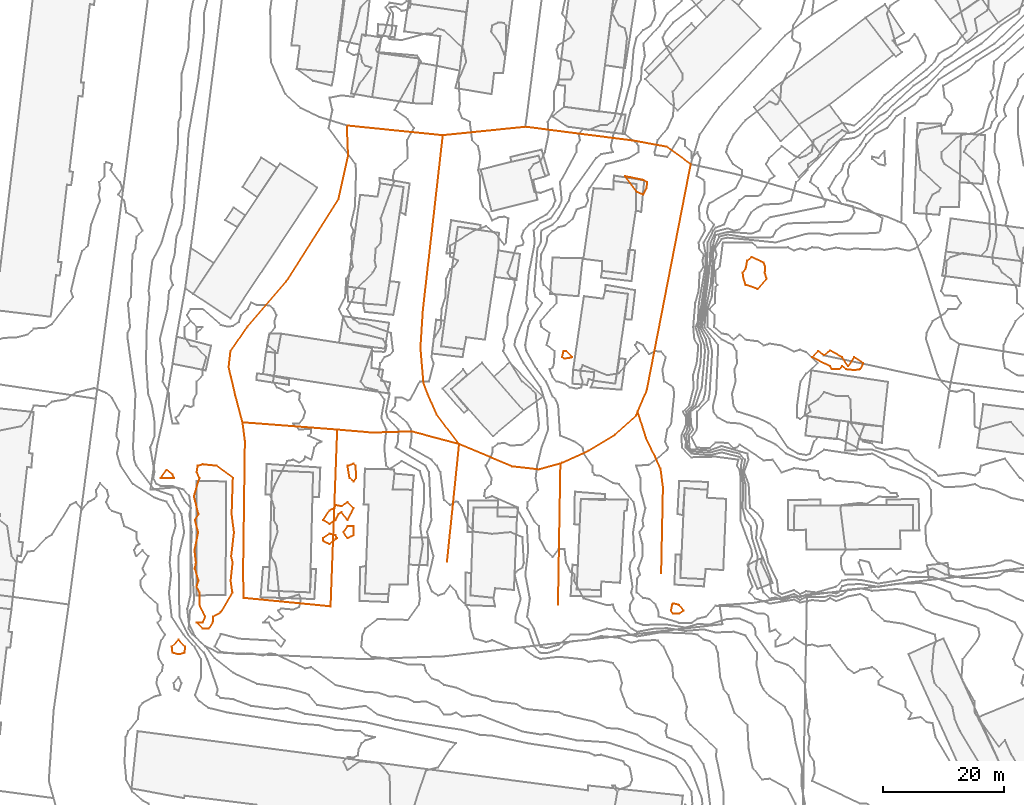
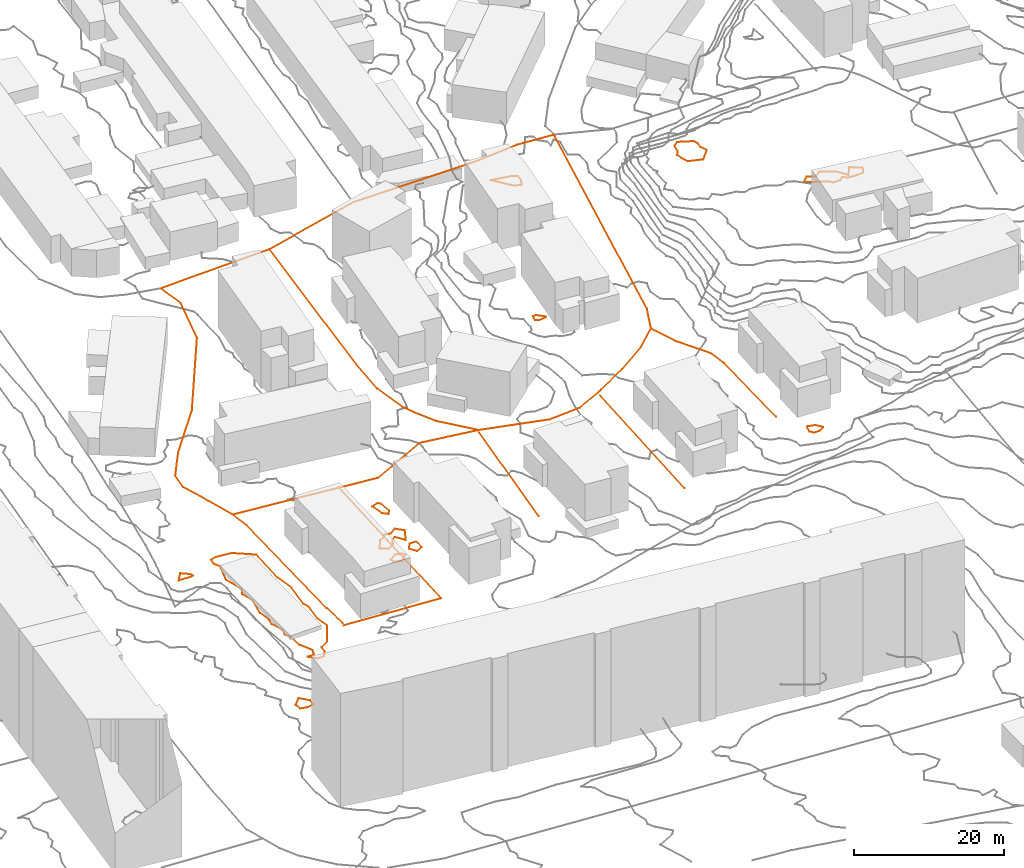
# Not in any storey, part 245 of 419: 27 proxies.
"""IFC2X3 model written with IfcOpenShell, lengths in metres."""

from ifc_helpers import new_model, entity, si_unit, frame, origin_with_axes, place, context, subcontext, project, element, save


model = new_model("IFC2X3")

# Units and contexts
model_context = context("Model", 3, precision=1e-05, world=origin_with_axes())
body_context = subcontext(model_context, "Body", "Model", "MODEL_VIEW")
ifc_project = project(units=[si_unit("AREAUNIT", "SQUARE_METRE"), si_unit("LENGTHUNIT", "METRE")], contexts=[model_context])

# Proxies
proxy_1_placement = place(None, frame((499.1920204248, 657.4976909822, 37.1), z_axis=(0.0, 0.0, 1.0), x_axis=(1.0, 0.0, 0.0)))
element("IfcBuildingElementProxy", 1, at=proxy_1_placement, Name="Route 61", ObjectType="NOTDEFINED", context=body_context, shape_type="GeometricCurveSet", body=[
    entity("IfcGeometricCurveSet", [entity("IfcPolyline", [entity("IfcCartesianPoint", [3.7000000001, 35.2000000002, 0.1]), entity("IfcCartesianPoint", [0.4, 6.2000000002, 0.0]), entity("IfcCartesianPoint", [0.0, 0.0, 0.0]), entity("IfcCartesianPoint", [0.5, -5.8999999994, 0.4]), entity("IfcCartesianPoint", [1.2000000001, -7.6999999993, 0.4]), entity("IfcCartesianPoint", [2.7000000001, -11.0999999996, 0.5]), entity("IfcCartesianPoint", [6.4, -16.0, 0.7])])]),
])
proxy_2_placement = place(None, frame((516.5920204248, 694.0976909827, 39.2), z_axis=(0.0, 0.0, 1.0), x_axis=(1.0, 0.0, 0.0)))
element("IfcBuildingElementProxy", 2, at=proxy_2_placement, Name="Route 71", ObjectType="NOTDEFINED", context=body_context, shape_type="GeometricCurveSet", body=[
    entity("IfcGeometricCurveSet", [entity("IfcPolyline", [entity("IfcCartesianPoint", [0.0, 0.0, 0.0]), entity("IfcCartesianPoint", [17.9, -2.2999999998, 1.9]), entity("IfcCartesianPoint", [23.4, -3.2999999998, 3.2]), entity("IfcCartesianPoint", [27.4, -6.2000000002, 5.2])])]),
])
proxy_3_placement = place(None, frame((469.6920204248, 645.0976909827, 34.4), z_axis=(0.0, 0.0, 1.0), x_axis=(1.0, 0.0, 0.0)))
element("IfcBuildingElementProxy", 3, at=proxy_3_placement, Name="Route 73", ObjectType="NOTDEFINED", context=body_context, shape_type="GeometricCurveSet", body=[
    entity("IfcGeometricCurveSet", [entity("IfcPolyline", [entity("IfcCartesianPoint", [0.0, 0.0, 0.0]), entity("IfcCartesianPoint", [15.7000000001, -1.2000000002, -0.4])])]),
])
proxy_4_placement = place(None, frame((467.3920204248, 654.2976909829, 34.1), z_axis=(0.0, 0.0, 1.0), x_axis=(1.0, 0.0, 0.0)))
element("IfcBuildingElementProxy", 4, at=proxy_4_placement, Name="Route 74", ObjectType="NOTDEFINED", context=body_context, shape_type="GeometricCurveSet", body=[
    entity("IfcGeometricCurveSet", [entity("IfcPolyline", [entity("IfcCartesianPoint", [19.6, 40.0, 1.3]), entity("IfcCartesianPoint", [19.7999999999, 35.0, 1.9]), entity("IfcCartesianPoint", [18.2, 27.7999999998, 1.2]), entity("IfcCartesianPoint", [9.5, 14.0999999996, 0.7]), entity("IfcCartesianPoint", [3.1, 6.6999999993, 0.5]), entity("IfcCartesianPoint", [0.2999999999, 2.5999999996, 0.2]), entity("IfcCartesianPoint", [0.0, 0.0, 0.0]), entity("IfcCartesianPoint", [1.1, -4.7000000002, 0.3]), entity("IfcCartesianPoint", [2.2999999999, -9.2000000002, 0.3])])]),
])
proxy_5_placement = place(None, frame((535.1920204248, 646.8976909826, 40.7520004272), z_axis=(0.0, 0.0, 1.0), x_axis=(1.0, 0.0, 0.0)))
element("IfcBuildingElementProxy", 5, at=proxy_5_placement, Name="Route 85", ObjectType="NOTDEFINED", context=body_context, shape_type="GeometricCurveSet", body=[
    entity("IfcGeometricCurveSet", [entity("IfcPolyline", [entity("IfcCartesianPoint", [0.0, 0.0, 0.0]), entity("IfcCartesianPoint", [1.4, -4.4000000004, 0.0839996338]), entity("IfcCartesianPoint", [2.9, -7.5, 0.2629989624]), entity("IfcCartesianPoint", [3.8, -9.5, 0.3700004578]), entity("IfcCartesianPoint", [4.2000000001, -12.5, 0.4239997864]), entity("IfcCartesianPoint", [3.9, -26.7999999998, 0.4994997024])])]),
])
proxy_6_placement = place(None, frame((469.6920204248, 645.0976909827, 34.4), z_axis=(0.0, 0.0, 1.0), x_axis=(1.0, 0.0, 0.0)))
element("IfcBuildingElementProxy", 6, at=proxy_6_placement, Name="Route 86", ObjectType="NOTDEFINED", context=body_context, shape_type="GeometricCurveSet", body=[
    entity("IfcGeometricCurveSet", [entity("IfcPolyline", [entity("IfcCartesianPoint", [0.0, 0.0, 0.0]), entity("IfcCartesianPoint", [0.4, -3.1000000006, 0.0]), entity("IfcCartesianPoint", [0.1, -25.0, -0.1]), entity("IfcCartesianPoint", [0.2000000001, -29.1000000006, -0.1])])]),
])
proxy_7_placement = place(None, frame((502.8920204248, 692.6976909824, 37.2), z_axis=(0.0, 0.0, 1.0), x_axis=(1.0, 0.0, 0.0)))
element("IfcBuildingElementProxy", 7, at=proxy_7_placement, Name="Route 124", ObjectType="NOTDEFINED", context=body_context, shape_type="GeometricCurveSet", body=[
    entity("IfcGeometricCurveSet", [entity("IfcPolyline", [entity("IfcCartesianPoint", [13.7, 1.4000000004, 2.0]), entity("IfcCartesianPoint", [0.0, 0.0, 0.0])])]),
])
proxy_8_placement = place(None, frame((485.3920204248, 643.8976909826, 34.0), z_axis=(0.0, 0.0, 1.0), x_axis=(1.0, 0.0, 0.0)))
element("IfcBuildingElementProxy", 8, at=proxy_8_placement, Name="Route 126", ObjectType="NOTDEFINED", context=body_context, shape_type="GeometricCurveSet", body=[
    entity("IfcGeometricCurveSet", [entity("IfcPolyline", [entity("IfcCartesianPoint", [0.0, 0.0, 0.0]), entity("IfcCartesianPoint", [5.7999999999, -0.5, -0.1]), entity("IfcCartesianPoint", [12.2999999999, -0.2999999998, 3.2]), entity("IfcCartesianPoint", [20.2, -2.4000000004, 3.8])])]),
])
proxy_9_placement = place(None, frame((521.9920204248, 614.8976909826, 38.7550003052), z_axis=(0.0, 0.0, 1.0), x_axis=(1.0, 0.0, 0.0)))
element("IfcBuildingElementProxy", 9, at=proxy_9_placement, Name="Route 135", ObjectType="NOTDEFINED", context=body_context, shape_type="GeometricCurveSet", body=[
    entity("IfcGeometricCurveSet", [entity("IfcPolyline", [entity("IfcCartesianPoint", [0.4, 23.4000000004, 0.8526006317]), entity("IfcCartesianPoint", [0.0, 0.0, 0.0])])]),
])
proxy_10_placement = place(None, frame((535.1920204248, 646.8976909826, 41.3), z_axis=(0.0, 0.0, 1.0), x_axis=(1.0, 0.0, 0.0)))
element("IfcBuildingElementProxy", 10, at=proxy_10_placement, Name="Route 138", ObjectType="NOTDEFINED", context=body_context, shape_type="GeometricCurveSet", body=[
    entity("IfcGeometricCurveSet", [entity("IfcPolyline", [entity("IfcCartesianPoint", [0.0, 0.0, 0.0]), entity("IfcCartesianPoint", [1.5, 3.5, 0.0]), entity("IfcCartesianPoint", [8.8, 41.0, 3.1])])]),
])
proxy_11_placement = place(None, frame((505.5920204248, 641.4976909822, 37.8), z_axis=(0.0, 0.0, 1.0), x_axis=(1.0, 0.0, 0.0)))
element("IfcBuildingElementProxy", 11, at=proxy_11_placement, Name="Route 149", ObjectType="NOTDEFINED", context=body_context, shape_type="GeometricCurveSet", body=[
    entity("IfcGeometricCurveSet", [entity("IfcPolyline", [entity("IfcCartesianPoint", [0.0, 0.0, 0.0]), entity("IfcCartesianPoint", [8.8, -3.6999999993, 0.9]), entity("IfcCartesianPoint", [13.2, -4.1999999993, 1.6]), entity("IfcCartesianPoint", [16.8, -3.1999999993, 2.4])])]),
])
proxy_12_placement = place(None, frame((503.5920204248, 621.9976909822, 36.2660003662), z_axis=(0.0, 0.0, 1.0), x_axis=(1.0, 0.0, 0.0)))
element("IfcBuildingElementProxy", 12, at=proxy_12_placement, Name="Route 150", ObjectType="NOTDEFINED", context=body_context, shape_type="GeometricCurveSet", body=[
    entity("IfcGeometricCurveSet", [entity("IfcPolyline", [entity("IfcCartesianPoint", [2.0, 19.5, 1.3110012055]), entity("IfcCartesianPoint", [0.0, 0.0, 0.0])])]),
])
proxy_13_placement = place(None, frame((469.8920204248, 615.9976909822, 33.8788010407), z_axis=(0.0, 0.0, 1.0), x_axis=(1.0, 0.0, 0.0)))
element("IfcBuildingElementProxy", 13, at=proxy_13_placement, Name="Route 187", ObjectType="NOTDEFINED", context=body_context, shape_type="GeometricCurveSet", body=[
    entity("IfcGeometricCurveSet", [entity("IfcPolyline", [entity("IfcCartesianPoint", [0.0, 0.0, 0.0]), entity("IfcCartesianPoint", [14.3999999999, -1.3999999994, 0.2623983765]), entity("IfcCartesianPoint", [15.5, 27.9000000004, 0.2032004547])])]),
])
proxy_14_placement = place(None, frame((522.3920204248, 638.2976909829, 40.2), z_axis=(0.0, 0.0, 1.0), x_axis=(1.0, 0.0, 0.0)))
element("IfcBuildingElementProxy", 14, at=proxy_14_placement, Name="Route 213", ObjectType="NOTDEFINED", context=body_context, shape_type="GeometricCurveSet", body=[
    entity("IfcGeometricCurveSet", [entity("IfcPolyline", [entity("IfcCartesianPoint", [0.0, 0.0, 0.0]), entity("IfcCartesianPoint", [0.2999999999, 0.0999999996, 0.1]), entity("IfcCartesianPoint", [4.7, 2.0999999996, 0.7]), entity("IfcCartesianPoint", [9.1, 4.7999999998, 1.0]), entity("IfcCartesianPoint", [12.5, 7.8999999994, 1.1]), entity("IfcCartesianPoint", [12.7999999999, 8.5999999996, 1.1])])]),
])
proxy_15_placement = place(None, frame((486.9920204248, 694.2976909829, 35.4), z_axis=(0.0, 0.0, 1.0), x_axis=(1.0, 0.0, 0.0)))
element("IfcBuildingElementProxy", 15, at=proxy_15_placement, Name="Route 341", ObjectType="NOTDEFINED", context=body_context, shape_type="GeometricCurveSet", body=[
    entity("IfcGeometricCurveSet", [entity("IfcPolyline", [entity("IfcCartesianPoint", [0.0, 0.0, 0.0]), entity("IfcCartesianPoint", [15.9, -1.6000000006, 1.8])])]),
])
proxy_16_placement = place(None, frame((533.0920004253, 685.8976909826, 42.0), z_axis=(0.0, 0.0, 1.0), x_axis=(1.0, 0.0, 0.0)))
element("IfcBuildingElementProxy", 16, at=proxy_16_placement, Name="Contour 42.0 m", ObjectType="NOTDEFINED", context=body_context, shape_type="GeometricCurveSet", body=[
    entity("IfcGeometricCurveSet", [entity("IfcPolyline", [entity("IfcCartesianPoint", [3.0000283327, -3.0, 0.0]), entity("IfcCartesianPoint", [2.0000199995, -2.6363573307, 0.0]), entity("IfcCartesianPoint", [0.0, 0.0, 0.0]), entity("IfcCartesianPoint", [3.0000199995, -0.5999847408, 0.0]), entity("IfcCartesianPoint", [3.6667290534, -1.0, 0.0]), entity("IfcCartesianPoint", [3.5714485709, -2.0, 0.0]), entity("IfcCartesianPoint", [3.0000283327, -3.0, 0.0])])]),
])
proxy_17_placement = place(None, frame((552.592045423, 669.8976909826, 49.0), z_axis=(0.0, 0.0, 1.0), x_axis=(1.0, 0.0, 0.0)))
element("IfcBuildingElementProxy", 17, at=proxy_17_placement, Name="Contour 49.0 m", ObjectType="NOTDEFINED", context=body_context, shape_type="GeometricCurveSet", body=[
    entity("IfcGeometricCurveSet", [entity("IfcPolyline", [entity("IfcCartesianPoint", [2.4999750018, -2.6667090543, 0.0]), entity("IfcCartesianPoint", [3.9999249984, -1.0, 0.0]), entity("IfcCartesianPoint", [3.6666204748, 0.0, 0.0]), entity("IfcCartesianPoint", [3.7499750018, 1.0, 0.0]), entity("IfcCartesianPoint", [3.4999750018, 1.6667090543, 0.0]), entity("IfcCartesianPoint", [1.4999750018, 2.5999847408, 0.0]), entity("IfcCartesianPoint", [0.7499511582, 2.0, 0.0]), entity("IfcCartesianPoint", [0.4999750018, 0.6667090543, 0.0]), entity("IfcCartesianPoint", [0.0, 0.0, 0.0]), entity("IfcCartesianPoint", [0.1666840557, -1.0, 0.0]), entity("IfcCartesianPoint", [0.5000749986, -2.0, 0.0]), entity("IfcCartesianPoint", [2.4999750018, -2.6667090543, 0.0])])]),
])
proxy_18_placement = place(None, frame((522.6374844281, 655.8976909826, 41.0), z_axis=(0.0, 0.0, 1.0), x_axis=(1.0, 0.0, 0.0)))
element("IfcBuildingElementProxy", 18, at=proxy_18_placement, Name="Contour 41.0 m", ObjectType="NOTDEFINED", context=body_context, shape_type="GeometricCurveSet", body=[
    entity("IfcGeometricCurveSet", [entity("IfcPolyline", [entity("IfcCartesianPoint", [1.4545359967, -0.0833200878, 0.0]), entity("IfcCartesianPoint", [1.7045121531, 0.0, 0.0]), entity("IfcCartesianPoint", [0.7045121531, 1.0, 0.0]), entity("IfcCartesianPoint", [0.2545665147, 1.0, 0.0]), entity("IfcCartesianPoint", [0.0, 0.0, 0.0]), entity("IfcCartesianPoint", [0.4545359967, -0.2272719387, 0.0]), entity("IfcCartesianPoint", [1.4545359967, -0.0833200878, 0.0])])]),
])
proxy_19_placement = place(None, frame((564.0920704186, 655.8976909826, 49.0), z_axis=(0.0, 0.0, 1.0), x_axis=(1.0, 0.0, 0.0)))
element("IfcBuildingElementProxy", 19, at=proxy_19_placement, Name="Contour 49.0 m", ObjectType="NOTDEFINED", context=body_context, shape_type="GeometricCurveSet", body=[
    entity("IfcGeometricCurveSet", [entity("IfcPolyline", [entity("IfcCartesianPoint", [6.9999500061, -2.142833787, 0.0]), entity("IfcCartesianPoint", [7.9999500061, -1.999966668, 0.0]), entity("IfcCartesianPoint", [8.4999333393, -1.0, 0.0]), entity("IfcCartesianPoint", [6.9999500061, -1.99992e-05, 0.0]), entity("IfcCartesianPoint", [5.9999500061, -1.5000500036, 0.0]), entity("IfcCartesianPoint", [4.9999166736, 0.0, 0.0]), entity("IfcCartesianPoint", [2.9999500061, 1.1110922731, 0.0]), entity("IfcCartesianPoint", [1.9999500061, 0.3332909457, 0.0]), entity("IfcCartesianPoint", [0.9999500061, 0.9999500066, 0.0]), entity("IfcCartesianPoint", [0.0, 0.0, 0.0]), entity("IfcCartesianPoint", [2.9999500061, -1.4999499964, 0.0]), entity("IfcCartesianPoint", [3.3332409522, -2.0, 0.0]), entity("IfcCartesianPoint", [4.4999250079, -2.0, 0.0]), entity("IfcCartesianPoint", [4.9999500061, -1.4999750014, 0.0]), entity("IfcCartesianPoint", [5.6666590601, -2.0, 0.0]), entity("IfcCartesianPoint", [6.9999500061, -2.142833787, 0.0])])]),
])
proxy_20_placement = place(None, frame((487.0920704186, 637.8976909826, 34.0), z_axis=(0.0, 0.0, 1.0), x_axis=(1.0, 0.0, 0.0)))
element("IfcBuildingElementProxy", 20, at=proxy_20_placement, Name="Contour 34.0 m", ObjectType="NOTDEFINED", context=body_context, shape_type="GeometricCurveSet", body=[
    entity("IfcGeometricCurveSet", [entity("IfcPolyline", [entity("IfcCartesianPoint", [0.9999500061, -2.5999999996, 0.0]), entity("IfcCartesianPoint", [1.4614952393, -2.0, 0.0]), entity("IfcCartesianPoint", [1.3332833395, 0.0, 0.0]), entity("IfcCartesianPoint", [0.9999500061, 0.333333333, 0.0]), entity("IfcCartesianPoint", [0.0, 0.0, 0.0]), entity("IfcCartesianPoint", [0.333269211, -2.0, 0.0]), entity("IfcCartesianPoint", [0.9999500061, -2.5999999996, 0.0])])]),
])
proxy_21_placement = place(None, frame((456.0796767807, 635.8976909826, 34.0), z_axis=(0.0, 0.0, 1.0), x_axis=(1.0, 0.0, 0.0)))
element("IfcBuildingElementProxy", 21, at=proxy_21_placement, Name="Contour 34.0 m", ObjectType="NOTDEFINED", context=body_context, shape_type="GeometricCurveSet", body=[
    entity("IfcGeometricCurveSet", [entity("IfcPolyline", [entity("IfcCartesianPoint", [2.2623496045, 0.0, 0.0]), entity("IfcCartesianPoint", [2.012343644, -0.0526326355, 0.0]), entity("IfcCartesianPoint", [0.0, 0.0, 0.0]), entity("IfcCartesianPoint", [1.012343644, 1.3333192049, 0.0]), entity("IfcCartesianPoint", [2.012343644, 0.5714441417, 0.0]), entity("IfcCartesianPoint", [2.2623496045, 0.0, 0.0])])]),
])
proxy_22_placement = place(None, frame((483.0253639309, 628.8976909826, 34.0), z_axis=(0.0, 0.0, 1.0), x_axis=(1.0, 0.0, 0.0)))
element("IfcBuildingElementProxy", 22, at=proxy_22_placement, Name="Contour 34.0 m", ObjectType="NOTDEFINED", context=body_context, shape_type="GeometricCurveSet", body=[
    entity("IfcGeometricCurveSet", [entity("IfcPolyline", [entity("IfcCartesianPoint", [1.0666564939, -0.6428610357, 0.0]), entity("IfcCartesianPoint", [2.0666453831, 0.0, 0.0]), entity("IfcCartesianPoint", [2.5666064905, 1.0, 0.0]), entity("IfcCartesianPoint", [3.0666564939, 1.3332909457, 0.0]), entity("IfcCartesianPoint", [4.0666564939, 2.49986e-05, 0.0]), entity("IfcCartesianPoint", [5.0666453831, 2.0, 0.0]), entity("IfcCartesianPoint", [4.0666564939, 2.9999888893, 0.0]), entity("IfcCartesianPoint", [3.0666564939, 2.2857220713, 0.0]), entity("IfcCartesianPoint", [2.0666564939, 2.4999499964, 0.0]), entity("IfcCartesianPoint", [1.9000110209, 2.0, 0.0]), entity("IfcCartesianPoint", [1.0666564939, 1.6153936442, 0.0]), entity("IfcCartesianPoint", [0.0, 0.0, 0.0]), entity("IfcCartesianPoint", [1.0666564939, -0.6428610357, 0.0])])]),
])
proxy_23_placement = place(None, frame((486.4253113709, 626.8976909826, 34.0), z_axis=(0.0, 0.0, 1.0), x_axis=(1.0, 0.0, 0.0)))
element("IfcBuildingElementProxy", 23, at=proxy_23_placement, Name="Contour 34.0 m", ObjectType="NOTDEFINED", context=body_context, shape_type="GeometricCurveSet", body=[
    entity("IfcGeometricCurveSet", [entity("IfcPolyline", [entity("IfcCartesianPoint", [1.6667090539, -0.4999750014, 0.0]), entity("IfcCartesianPoint", [1.6667090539, 0.9999500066, 0.0]), entity("IfcCartesianPoint", [0.6667090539, 0.9999500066, 0.0]), entity("IfcCartesianPoint", [0.0, 0.0, 0.0]), entity("IfcCartesianPoint", [0.6667090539, -0.9999500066, 0.0]), entity("IfcCartesianPoint", [1.6667090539, -0.4999750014, 0.0])])]),
])
proxy_24_placement = place(None, frame((483.008700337, 625.8976909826, 34.0), z_axis=(0.0, 0.0, 1.0), x_axis=(1.0, 0.0, 0.0)))
element("IfcBuildingElementProxy", 24, at=proxy_24_placement, Name="Contour 34.0 m", ObjectType="NOTDEFINED", context=body_context, shape_type="GeometricCurveSet", body=[
    entity("IfcGeometricCurveSet", [entity("IfcPolyline", [entity("IfcCartesianPoint", [2.0833200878, -0.1666454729, 0.0]), entity("IfcCartesianPoint", [2.3332962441, 0.0, 0.0]), entity("IfcCartesianPoint", [2.0833200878, 0.4999499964, 0.0]), entity("IfcCartesianPoint", [1.0833200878, 0.7500238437, 0.0]), entity("IfcCartesianPoint", [0.0, 0.0, 0.0]), entity("IfcCartesianPoint", [0.0833200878, -0.4999499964, 0.0]), entity("IfcCartesianPoint", [1.0833200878, -0.999966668, 0.0]), entity("IfcCartesianPoint", [2.0833200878, -0.1666454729, 0.0])])]),
])
proxy_25_placement = place(None, frame((540.7212331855, 613.8976909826, 42.0), z_axis=(0.0, 0.0, 1.0), x_axis=(1.0, 0.0, 0.0)))
element("IfcBuildingElementProxy", 25, at=proxy_25_placement, Name="Contour 42.0 m", ObjectType="NOTDEFINED", context=body_context, shape_type="GeometricCurveSet", body=[
    entity("IfcGeometricCurveSet", [entity("IfcPolyline", [entity("IfcCartesianPoint", [2.1041233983, 0.0, 0.0]), entity("IfcCartesianPoint", [1.3707872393, -0.4852965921, 0.0]), entity("IfcCartesianPoint", [0.3707872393, -0.5238115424, 0.0]), entity("IfcCartesianPoint", [0.0, 0.0, 0.0]), entity("IfcCartesianPoint", [0.1847366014, 1.0, 0.0]), entity("IfcCartesianPoint", [0.3707872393, 1.1777815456, 0.0]), entity("IfcCartesianPoint", [1.3707872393, 0.9428562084, 0.0]), entity("IfcCartesianPoint", [2.1041233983, 0.0, 0.0])])]),
])
proxy_26_placement = place(None, frame((461.6364658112, 632.8976909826, 34.0), z_axis=(0.0, 0.0, 1.0), x_axis=(1.0, 0.0, 0.0)))
element("IfcBuildingElementProxy", 26, at=proxy_26_placement, Name="Contour 34.0 m", ObjectType="NOTDEFINED", context=body_context, shape_type="GeometricCurveSet", body=[
    entity("IfcGeometricCurveSet", [entity("IfcPolyline", [entity("IfcCartesianPoint", [2.4556046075, -22.0, 0.0]), entity("IfcCartesianPoint", [1.4554546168, -22.0, 0.0]), entity("IfcCartesianPoint", [0.4555546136, -21.000099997, 0.0]), entity("IfcCartesianPoint", [1.4555546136, -20.9999500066, 0.0]), entity("IfcCartesianPoint", [1.8555698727, -20.0, 0.0]), entity("IfcCartesianPoint", [0.9081861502, -18.0, 0.0]), entity("IfcCartesianPoint", [0.9177393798, -16.0, 0.0]), entity("IfcCartesianPoint", [0.4427338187, -15.0, 0.0]), entity("IfcCartesianPoint", [0.754403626, -14.0, 0.0]), entity("IfcCartesianPoint", [0.1490219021, -12.0, 0.0]), entity("IfcCartesianPoint", [0.3419170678, -11.0, 0.0]), entity("IfcCartesianPoint", [0.0908495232, -9.0, 0.0]), entity("IfcCartesianPoint", [0.7116511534, -6.0, 0.0]), entity("IfcCartesianPoint", [0.1755558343, -4.0, 0.0]), entity("IfcCartesianPoint", [0.7340368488, -3.0, 0.0]), entity("IfcCartesianPoint", [0.0, 0.0, 0.0]), entity("IfcCartesianPoint", [0.8999943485, 3.0, 0.0]), entity("IfcCartesianPoint", [0.4555474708, 4.0, 0.0]), entity("IfcCartesianPoint", [0.6222000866, 5.0, 0.0]), entity("IfcCartesianPoint", [1.4555546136, 5.2499952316, 0.0]), entity("IfcCartesianPoint", [3.7412766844, 5.0, 0.0]), entity("IfcCartesianPoint", [6.4555601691, 3.0, 0.0]), entity("IfcCartesianPoint", [6.255550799, -3.0, 0.0]), entity("IfcCartesianPoint", [6.6460359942, -6.0, 0.0]), entity("IfcCartesianPoint", [6.1748529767, -10.0, 0.0]), entity("IfcCartesianPoint", [6.4323025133, -11.0, 0.0]), entity("IfcCartesianPoint", [6.0841254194, -14.0, 0.0]), entity("IfcCartesianPoint", [6.3704465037, -16.0, 0.0]), entity("IfcCartesianPoint", [4.4555546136, -19.2857220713, 0.0]), entity("IfcCartesianPoint", [3.2055784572, -20.0, 0.0]), entity("IfcCartesianPoint", [3.1222636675, -21.0, 0.0]), entity("IfcCartesianPoint", [2.4556046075, -22.0, 0.0])])]),
])
proxy_27_placement = place(None, frame((457.9670174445, 607.8976909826, 30.0), z_axis=(0.0, 0.0, 1.0), x_axis=(1.0, 0.0, 0.0)))
element("IfcBuildingElementProxy", 27, at=proxy_27_placement, Name="Contour 30.0 m", ObjectType="NOTDEFINED", context=body_context, shape_type="GeometricCurveSet", body=[
    entity("IfcGeometricCurveSet", [entity("IfcPolyline", [entity("IfcCartesianPoint", [1.1250029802, -1.250003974, 0.0]), entity("IfcCartesianPoint", [2.1249696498, -1.0, 0.0]), entity("IfcCartesianPoint", [2.1964334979, 0.0, 0.0]), entity("IfcCartesianPoint", [1.1250029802, 1.2142886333, 0.0]), entity("IfcCartesianPoint", [0.0, 0.0, 0.0]), entity("IfcCartesianPoint", [0.1250363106, -1.0, 0.0]), entity("IfcCartesianPoint", [1.1250029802, -1.250003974, 0.0])])]),
])

save(model, "model.ifc")
